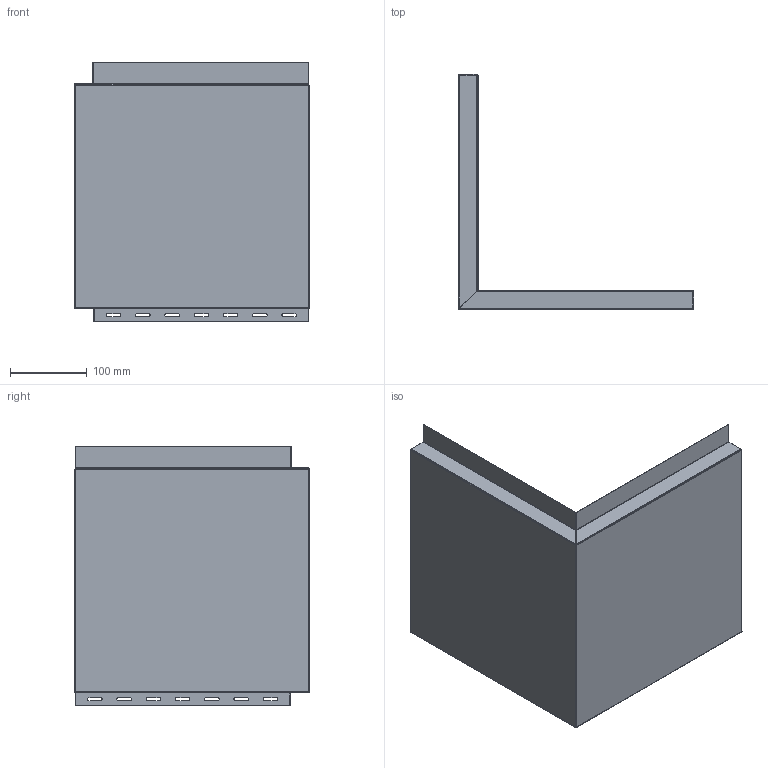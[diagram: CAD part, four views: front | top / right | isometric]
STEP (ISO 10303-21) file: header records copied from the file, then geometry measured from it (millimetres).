
FILE_DESCRIPTION(/* description */ (''),/* implementation_level */ '2;1');
FILE_NAME(/* name */ 'SPCG24.12.stp',/* time_stamp */ '2023-11-09T11:37:27-05:00',/* author */ ('Olivier St-Arneault'),/* organization */ (''),/* preprocessor_version */ 'ST-DEVELOPER v19.2',/* originating_system */ 'Autodesk Inventor 2024',/* authorisation */ '');
FILE_SCHEMA (('AUTOMOTIVE_DESIGN { 1 0 10303 214 3 1 1 }'));
Length unit declared in the file: inch
Products named in the file (1): SPCG24.12
Bounding box: 305.8 x 305.8 x 337.13 mm (x, y, z)
Volume: 168937.5 mm3; surface area: 513581.6 mm2
Topology: 1 solids, 1 shells, 177 faces, 527 edges, 348 vertices
Faces by surface type: plane 90, cylinder 74, bspline 13
Entity records: 6614 total; most frequent: CARTESIAN_POINT 1822, ORIENTED_EDGE 1062, DIRECTION 902, EDGE_CURVE 531, VERTEX_POINT 356, LINE 334, VECTOR 334, AXIS2_PLACEMENT_3D 284
